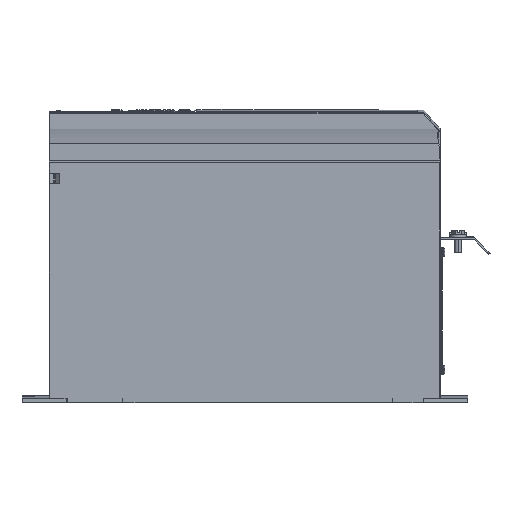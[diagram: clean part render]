
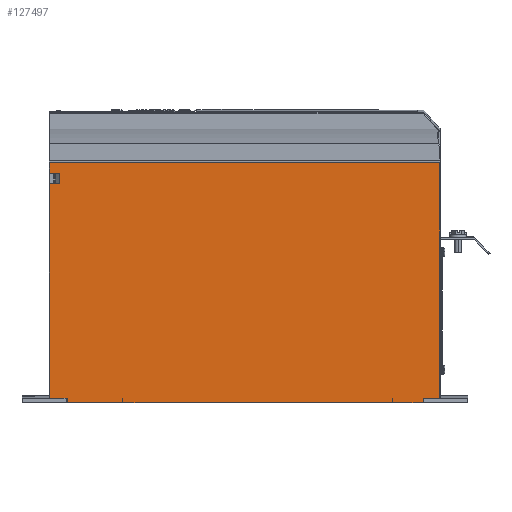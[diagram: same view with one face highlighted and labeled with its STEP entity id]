
A CAD part, left-side view. The second image highlights one B-rep face of the part: STEP entity #127497.
In plain terms, the highlighted planar face has unit normal (-1, 0, 0).
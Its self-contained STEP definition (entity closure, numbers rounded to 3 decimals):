
#47261=DIRECTION('',(0.,1.,0.));
#47262=VECTOR('',#47261,8.146);
#47263=CARTESIAN_POINT('',(-82.5,166.604,205.45));
#47264=LINE('',#47263,#47262);
#47268=DIRECTION('',(0.,0.,1.));
#47269=VECTOR('',#47268,9.2);
#47270=CARTESIAN_POINT('',(-82.5,174.75,205.45));
#47271=LINE('',#47270,#47269);
#47275=DIRECTION('',(0.,1.,0.));
#47276=VECTOR('',#47275,349.25);
#47277=CARTESIAN_POINT('',(-82.5,-174.5,214.65));
#47278=LINE('',#47277,#47276);
#47282=DIRECTION('',(0.,0.,-1.));
#47283=VECTOR('',#47282,210.882);
#47284=CARTESIAN_POINT('',(-82.5,-174.5,214.65));
#47285=LINE('',#47284,#47283);
#47289=DIRECTION('',(0.,1.,0.));
#47290=VECTOR('',#47289,14.95);
#47291=CARTESIAN_POINT('',(-82.5,-174.5,3.768));
#47292=LINE('',#47291,#47290);
#47296=DIRECTION('',(0.,0.,1.));
#47297=VECTOR('',#47296,3.768);
#47298=CARTESIAN_POINT('',(-82.5,-132.589,0.));
#47299=LINE('',#47298,#47297);
#47303=DIRECTION('',(0.,1.,0.));
#47304=VECTOR('',#47303,0.5);
#47305=CARTESIAN_POINT('',(-82.5,-132.589,3.768));
#47306=LINE('',#47305,#47304);
#47310=DIRECTION('',(0.,0.,-1.));
#47311=VECTOR('',#47310,3.775);
#47312=CARTESIAN_POINT('',(-82.5,-132.089,3.768));
#47313=LINE('',#47312,#47311);
#47317=DIRECTION('',(0.,1.,0.));
#47318=VECTOR('',#47317,241.178);
#47319=CARTESIAN_POINT('',(-82.5,-132.089,-0.007));
#47320=LINE('',#47319,#47318);
#47324=DIRECTION('',(0.,0.,1.));
#47325=VECTOR('',#47324,3.775);
#47326=CARTESIAN_POINT('',(-82.5,109.089,-0.007));
#47327=LINE('',#47326,#47325);
#47331=DIRECTION('',(0.,1.,0.));
#47332=VECTOR('',#47331,0.5);
#47333=CARTESIAN_POINT('',(-82.5,109.089,3.768));
#47334=LINE('',#47333,#47332);
#47338=DIRECTION('',(0.,0.,1.));
#47339=VECTOR('',#47338,3.768);
#47340=CARTESIAN_POINT('',(-82.5,109.589,0.));
#47341=LINE('',#47340,#47339);
#47345=DIRECTION('',(0.,1.,0.));
#47346=VECTOR('',#47345,15.594);
#47347=CARTESIAN_POINT('',(-82.5,159.156,3.768));
#47348=LINE('',#47347,#47346);
#47352=DIRECTION('',(0.,0.,1.));
#47353=VECTOR('',#47352,192.182);
#47354=CARTESIAN_POINT('',(-82.5,174.75,3.768));
#47355=LINE('',#47354,#47353);
#47359=DIRECTION('',(0.,1.,0.));
#47360=VECTOR('',#47359,8.854);
#47361=CARTESIAN_POINT('',(-82.5,165.896,195.95));
#47362=LINE('',#47361,#47360);
#47366=DIRECTION('',(0.,0.,-1.));
#47367=VECTOR('',#47366,9.);
#47368=CARTESIAN_POINT('',(-82.5,165.896,
204.95));
#47369=LINE('',#47368,#47367);
#47373=CARTESIAN_POINT('',(-82.5,165.896,
204.95));
#47374=CARTESIAN_POINT('',(-82.5,165.896,
204.967));
#47375=CARTESIAN_POINT('',(-82.5,165.899,
205.001));
#47376=CARTESIAN_POINT('',(-82.5,165.911,
205.055));
#47377=CARTESIAN_POINT('',(-82.5,165.932,
205.111));
#47378=CARTESIAN_POINT('',(-82.5,165.966,
205.17));
#47379=CARTESIAN_POINT('',(-82.5,166.013,
205.228));
#47380=CARTESIAN_POINT('',(-82.5,166.075,
205.285));
#47381=CARTESIAN_POINT('',(-82.5,166.152,
205.337));
#47382=CARTESIAN_POINT('',(-82.5,166.244,
205.383));
#47383=CARTESIAN_POINT('',(-82.5,166.352,
205.42));
#47384=CARTESIAN_POINT('',(-82.5,166.473,
205.444));
#47385=CARTESIAN_POINT('',(-82.5,166.559,
205.45));
#47386=CARTESIAN_POINT('',(-82.5,166.604,205.45));
#47600=CARTESIAN_POINT('',(-82.5,-174.5,3.768));
#47626=CARTESIAN_POINT('',(-82.5,174.75,3.768));
#49773=DIRECTION('',(0.,-1.,0.));
#49774=VECTOR('',#49773,26.961);
#49775=CARTESIAN_POINT('',(-82.5,-132.589,0.));
#49776=LINE('',#49775,#49774);
#49823=DIRECTION('',(0.,0.,1.));
#49824=VECTOR('',#49823,3.768);
#49825=CARTESIAN_POINT('',(-82.5,-159.55,0.));
#49826=LINE('',#49825,#49824);
#50780=DIRECTION('',(0.,0.,1.));
#50781=VECTOR('',#50780,3.768);
#50782=CARTESIAN_POINT('',(-82.5,159.156,0.));
#50783=LINE('',#50782,#50781);
#50823=DIRECTION('',(0.,-1.,0.));
#50824=VECTOR('',#50823,49.567);
#50825=CARTESIAN_POINT('',(-82.5,159.156,0.));
#50826=LINE('',#50825,#50824);
#67819=CARTESIAN_POINT('',(-82.5,-132.089,-0.007));
#67820=CARTESIAN_POINT('',(-82.5,109.089,-0.007));
#67821=VERTEX_POINT('',#67819);
#67822=VERTEX_POINT('',#67820);
#67828=CARTESIAN_POINT('',(-82.5,109.089,3.768));
#67830=VERTEX_POINT('',#67828);
#67832=CARTESIAN_POINT('',(-82.5,-132.089,3.768));
#67834=VERTEX_POINT('',#67832);
#67841=CARTESIAN_POINT('',(-82.5,-132.589,0.));
#67842=VERTEX_POINT('',#67841);
#67843=CARTESIAN_POINT('',(-82.5,-159.55,0.));
#67844=VERTEX_POINT('',#67843);
#67867=CARTESIAN_POINT('',(-82.5,-132.589,3.768));
#67868=VERTEX_POINT('',#67867);
#67869=CARTESIAN_POINT('',(-82.5,-159.55,3.768));
#67871=VERTEX_POINT('',#67869);
#67916=VERTEX_POINT('',#47600);
#67923=CARTESIAN_POINT('',(-82.5,109.589,0.));
#67924=VERTEX_POINT('',#67923);
#67925=CARTESIAN_POINT('',(-82.5,159.156,0.));
#67926=VERTEX_POINT('',#67925);
#67949=CARTESIAN_POINT('',(-82.5,109.589,3.768));
#67950=VERTEX_POINT('',#67949);
#67951=CARTESIAN_POINT('',(-82.5,159.156,3.768));
#67953=VERTEX_POINT('',#67951);
#68360=CARTESIAN_POINT('',(-82.5,-174.5,214.65));
#68362=VERTEX_POINT('',#68360);
#69033=CARTESIAN_POINT('',(-82.5,174.75,214.65));
#69035=VERTEX_POINT('',#69033);
#69037=VERTEX_POINT('',#47626);
#69065=CARTESIAN_POINT('',(-82.5,166.604,205.45));
#69066=CARTESIAN_POINT('',(-82.5,174.75,205.45));
#69067=VERTEX_POINT('',#69065);
#69068=VERTEX_POINT('',#69066);
#69120=VERTEX_POINT('',#47373);
#69124=CARTESIAN_POINT('',(-82.5,165.896,195.95));
#69125=VERTEX_POINT('',#69124);
#69325=CARTESIAN_POINT('',(-82.5,174.75,195.95));
#69327=VERTEX_POINT('',#69325);
#127448=CARTESIAN_POINT('',(-82.5,-175.,3.768));
#127449=DIRECTION('',(-1.,0.,0.));
#127450=DIRECTION('',(0.,0.,1.));
#127451=AXIS2_PLACEMENT_3D('',#127448,#127449,#127450);
#127452=PLANE('',#127451);
#127454=ORIENTED_EDGE('',*,*,#127453,.T.);
#127456=ORIENTED_EDGE('',*,*,#127455,.T.);
#127458=ORIENTED_EDGE('',*,*,#127457,.F.);
#127460=ORIENTED_EDGE('',*,*,#127459,.T.);
#127462=ORIENTED_EDGE('',*,*,#127461,.T.);
#127464=ORIENTED_EDGE('',*,*,#127463,.F.);
#127466=ORIENTED_EDGE('',*,*,#127465,.F.);
#127468=ORIENTED_EDGE('',*,*,#127467,.T.);
#127470=ORIENTED_EDGE('',*,*,#127469,.T.);
#127472=ORIENTED_EDGE('',*,*,#127471,.T.);
#127474=ORIENTED_EDGE('',*,*,#127473,.T.);
#127476=ORIENTED_EDGE('',*,*,#127475,.T.);
#127478=ORIENTED_EDGE('',*,*,#127477,.T.);
#127480=ORIENTED_EDGE('',*,*,#127479,.F.);
#127482=ORIENTED_EDGE('',*,*,#127481,.F.);
#127484=ORIENTED_EDGE('',*,*,#127483,.T.);
#127486=ORIENTED_EDGE('',*,*,#127485,.T.);
#127488=ORIENTED_EDGE('',*,*,#127487,.T.);
#127490=ORIENTED_EDGE('',*,*,#127489,.F.);
#127492=ORIENTED_EDGE('',*,*,#127491,.F.);
#127494=ORIENTED_EDGE('',*,*,#127493,.T.);
#127495=EDGE_LOOP('',(#127454,#127456,#127458,#127460,#127462,#127464,#127466,
#127468,#127470,#127472,#127474,#127476,#127478,#127480,#127482,#127484,#127486,
#127488,#127490,#127492,#127494));
#127496=FACE_OUTER_BOUND('',#127495,.F.);
#127497=ADVANCED_FACE('',(#127496),#127452,.T.);
#47387=B_SPLINE_CURVE_WITH_KNOTS('',3,(#47373,#47374,#47375,#47376,#47377,
#47378,#47379,#47380,#47381,#47382,#47383,#47384,#47385,#47386),.UNSPECIFIED.,
.F.,.F.,(4,1,1,1,1,1,1,1,1,1,1,4),(0.,0.091,0.182,
0.273,0.364,0.455,0.545,
0.636,0.727,0.818,0.909,1.),
.UNSPECIFIED.);
#127453=EDGE_CURVE('',#69067,#69068,#47264,.T.);
#127455=EDGE_CURVE('',#69068,#69035,#47271,.T.);
#127457=EDGE_CURVE('',#68362,#69035,#47278,.T.);
#127459=EDGE_CURVE('',#68362,#67916,#47285,.T.);
#127461=EDGE_CURVE('',#67916,#67871,#47292,.T.);
#127463=EDGE_CURVE('',#67844,#67871,#49826,.T.);
#127465=EDGE_CURVE('',#67842,#67844,#49776,.T.);
#127467=EDGE_CURVE('',#67842,#67868,#47299,.T.);
#127469=EDGE_CURVE('',#67868,#67834,#47306,.T.);
#127471=EDGE_CURVE('',#67834,#67821,#47313,.T.);
#127473=EDGE_CURVE('',#67821,#67822,#47320,.T.);
#127475=EDGE_CURVE('',#67822,#67830,#47327,.T.);
#127477=EDGE_CURVE('',#67830,#67950,#47334,.T.);
#127479=EDGE_CURVE('',#67924,#67950,#47341,.T.);
#127481=EDGE_CURVE('',#67926,#67924,#50826,.T.);
#127483=EDGE_CURVE('',#67926,#67953,#50783,.T.);
#127485=EDGE_CURVE('',#67953,#69037,#47348,.T.);
#127487=EDGE_CURVE('',#69037,#69327,#47355,.T.);
#127489=EDGE_CURVE('',#69125,#69327,#47362,.T.);
#127491=EDGE_CURVE('',#69120,#69125,#47369,.T.);
#127493=EDGE_CURVE('',#69120,#69067,#47387,.T.);
